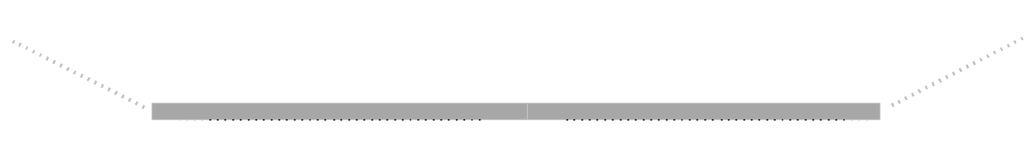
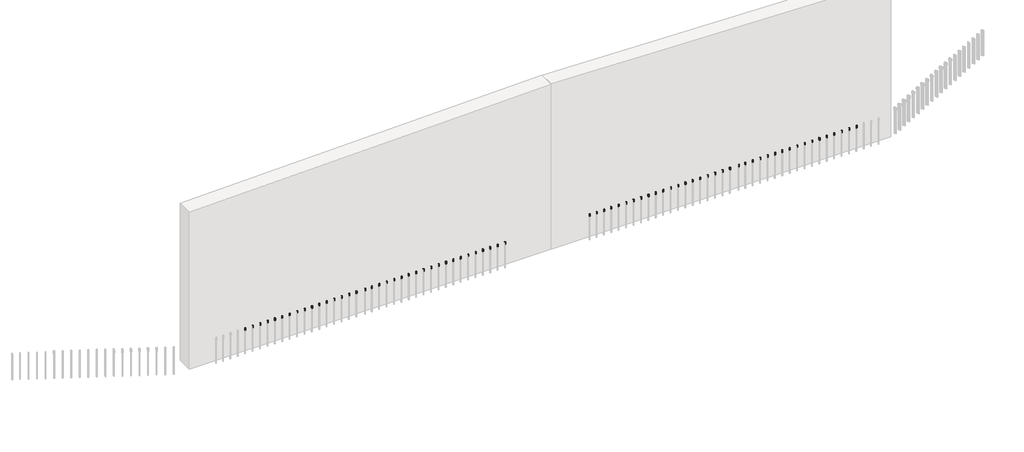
# One storey, part 6 of 7: 144 proxies.
"""IFC4 building model written with IfcOpenShell, lengths in millimetres."""

from ifc_helpers import new_model, si_unit, origin, place, context, project, spatial, transform, mapped, element, save
from components import generic_models_e9040c9c

model = new_model("IFC4")

# Units and contexts
model_context = context("Model", 3, world=origin())
ifc_project = project(units=[si_unit("LENGTHUNIT", "METRE", prefix="MILLI")], contexts=[model_context])

# Site, building, storey
site = spatial("IfcSite", under=ifc_project)
building = spatial("IfcBuilding", under=site)
storey = spatial("IfcBuildingStorey", under=building, Name="Niveau bas piédroits", Elevation=1000.0)

# Proxies
placement = place(None, origin())
generic_models_shape = generic_models_e9040c9c(model_context)
element("IfcBuildingElementProxy", 1, Name="Bouchon de sécurité vertical : Bouchon de sécurité vertical", ObjectType="Bouchon de sécurité vertical : Bouchon de sécurité vertical", at=placement, inside=storey, context=model_context, shape_type="MappedRepresentation", body=[
    mapped(generic_models_shape, transform((-7949.4240936, 5057.4338661, 1708.9775513), x_axis=(1.0, 0.0, 0.0), y_axis=(0.0, 1.0, 0.0), z_axis=(0.0, 0.0, 1.0))),
])
element("IfcBuildingElementProxy", 2, Name="Bouchon de sécurité vertical : Bouchon de sécurité vertical", ObjectType="Bouchon de sécurité vertical : Bouchon de sécurité vertical", at=placement, inside=storey, context=model_context, shape_type="MappedRepresentation", body=[
    mapped(generic_models_shape, transform((-8189.4240936, 5057.4338661, 1708.9775513), x_axis=(1.0, 0.0, 0.0), y_axis=(0.0, 1.0, 0.0), z_axis=(0.0, 0.0, 1.0))),
])
element("IfcBuildingElementProxy", 3, Name="Bouchon de sécurité vertical : Bouchon de sécurité vertical", ObjectType="Bouchon de sécurité vertical : Bouchon de sécurité vertical", at=placement, inside=storey, context=model_context, shape_type="MappedRepresentation", body=[
    mapped(generic_models_shape, transform((-8429.4240936, 5057.4338661, 1708.9775513), x_axis=(1.0, 0.0, 0.0), y_axis=(0.0, 1.0, 0.0), z_axis=(0.0, 0.0, 1.0))),
])
element("IfcBuildingElementProxy", 4, Name="Bouchon de sécurité vertical : Bouchon de sécurité vertical", ObjectType="Bouchon de sécurité vertical : Bouchon de sécurité vertical", at=placement, inside=storey, context=model_context, shape_type="MappedRepresentation", body=[
    mapped(generic_models_shape, transform((-8669.4240936, 5057.4338661, 1708.9775513), x_axis=(1.0, 0.0, 0.0), y_axis=(0.0, 1.0, 0.0), z_axis=(0.0, 0.0, 1.0))),
])
element("IfcBuildingElementProxy", 5, Name="Bouchon de sécurité vertical : Bouchon de sécurité vertical", ObjectType="Bouchon de sécurité vertical : Bouchon de sécurité vertical", at=placement, inside=storey, context=model_context, shape_type="MappedRepresentation", body=[
    mapped(generic_models_shape, transform((-8909.4240936, 5057.4338661, 1708.9775513), x_axis=(1.0, 0.0, 0.0), y_axis=(0.0, 1.0, 0.0), z_axis=(0.0, 0.0, 1.0))),
])
element("IfcBuildingElementProxy", 6, Name="Bouchon de sécurité vertical : Bouchon de sécurité vertical", ObjectType="Bouchon de sécurité vertical : Bouchon de sécurité vertical", at=placement, inside=storey, context=model_context, shape_type="MappedRepresentation", body=[
    mapped(generic_models_shape, transform((-9149.4240936, 5057.4338661, 1708.9775513), x_axis=(1.0, 0.0, 0.0), y_axis=(0.0, 1.0, 0.0), z_axis=(0.0, 0.0, 1.0))),
])
element("IfcBuildingElementProxy", 7, Name="Bouchon de sécurité vertical : Bouchon de sécurité vertical", ObjectType="Bouchon de sécurité vertical : Bouchon de sécurité vertical", at=placement, inside=storey, context=model_context, shape_type="MappedRepresentation", body=[
    mapped(generic_models_shape, transform((-9389.4240936, 5057.4338661, 1708.9775513), x_axis=(1.0, 0.0, 0.0), y_axis=(0.0, 1.0, 0.0), z_axis=(0.0, 0.0, 1.0))),
])
element("IfcBuildingElementProxy", 8, Name="Bouchon de sécurité vertical : Bouchon de sécurité vertical", ObjectType="Bouchon de sécurité vertical : Bouchon de sécurité vertical", at=placement, inside=storey, context=model_context, shape_type="MappedRepresentation", body=[
    mapped(generic_models_shape, transform((-9629.4240936, 5057.4338661, 1708.9775513), x_axis=(1.0, 0.0, 0.0), y_axis=(0.0, 1.0, 0.0), z_axis=(0.0, 0.0, 1.0))),
])
element("IfcBuildingElementProxy", 9, Name="Bouchon de sécurité vertical : Bouchon de sécurité vertical", ObjectType="Bouchon de sécurité vertical : Bouchon de sécurité vertical", at=placement, inside=storey, context=model_context, shape_type="MappedRepresentation", body=[
    mapped(generic_models_shape, transform((-9869.4240936, 5057.4338661, 1708.9775513), x_axis=(1.0, 0.0, 0.0), y_axis=(0.0, 1.0, 0.0), z_axis=(0.0, 0.0, 1.0))),
])
element("IfcBuildingElementProxy", 10, Name="Bouchon de sécurité vertical : Bouchon de sécurité vertical", ObjectType="Bouchon de sécurité vertical : Bouchon de sécurité vertical", at=placement, inside=storey, context=model_context, shape_type="MappedRepresentation", body=[
    mapped(generic_models_shape, transform((-7709.4240936, 5057.4338661, 1708.9775513), x_axis=(1.0, 0.0, 0.0), y_axis=(0.0, 1.0, 0.0), z_axis=(0.0, 0.0, 1.0))),
])
element("IfcBuildingElementProxy", 11, Name="Bouchon de sécurité vertical : Bouchon de sécurité vertical", ObjectType="Bouchon de sécurité vertical : Bouchon de sécurité vertical", at=placement, inside=storey, context=model_context, shape_type="MappedRepresentation", body=[
    mapped(generic_models_shape, transform((-7469.4240936, 5057.4338661, 1708.9775513), x_axis=(1.0, 0.0, 0.0), y_axis=(0.0, 1.0, 0.0), z_axis=(0.0, 0.0, 1.0))),
])
element("IfcBuildingElementProxy", 12, Name="Bouchon de sécurité vertical : Bouchon de sécurité vertical", ObjectType="Bouchon de sécurité vertical : Bouchon de sécurité vertical", at=placement, inside=storey, context=model_context, shape_type="MappedRepresentation", body=[
    mapped(generic_models_shape, transform((-5989.3381686, 5057.4338661, 1708.9775513), x_axis=(1.0, 0.0, 0.0), y_axis=(0.0, 1.0, 0.0), z_axis=(0.0, 0.0, 1.0))),
])
element("IfcBuildingElementProxy", 13, Name="Bouchon de sécurité vertical : Bouchon de sécurité vertical", ObjectType="Bouchon de sécurité vertical : Bouchon de sécurité vertical", at=placement, inside=storey, context=model_context, shape_type="MappedRepresentation", body=[
    mapped(generic_models_shape, transform((-6269.4240936, 5057.4338661, 1708.9775513), x_axis=(1.0, 0.0, 0.0), y_axis=(0.0, 1.0, 0.0), z_axis=(0.0, 0.0, 1.0))),
])
element("IfcBuildingElementProxy", 14, Name="Bouchon de sécurité vertical : Bouchon de sécurité vertical", ObjectType="Bouchon de sécurité vertical : Bouchon de sécurité vertical", at=placement, inside=storey, context=model_context, shape_type="MappedRepresentation", body=[
    mapped(generic_models_shape, transform((-6509.4240936, 5057.4338661, 1708.9775513), x_axis=(1.0, 0.0, 0.0), y_axis=(0.0, 1.0, 0.0), z_axis=(0.0, 0.0, 1.0))),
])
element("IfcBuildingElementProxy", 15, Name="Bouchon de sécurité vertical : Bouchon de sécurité vertical", ObjectType="Bouchon de sécurité vertical : Bouchon de sécurité vertical", at=placement, inside=storey, context=model_context, shape_type="MappedRepresentation", body=[
    mapped(generic_models_shape, transform((-6749.4240936, 5057.4338661, 1708.9775513), x_axis=(1.0, 0.0, 0.0), y_axis=(0.0, 1.0, 0.0), z_axis=(0.0, 0.0, 1.0))),
])
element("IfcBuildingElementProxy", 16, Name="Bouchon de sécurité vertical : Bouchon de sécurité vertical", ObjectType="Bouchon de sécurité vertical : Bouchon de sécurité vertical", at=placement, inside=storey, context=model_context, shape_type="MappedRepresentation", body=[
    mapped(generic_models_shape, transform((-6989.4240936, 5057.4338661, 1708.9775513), x_axis=(1.0, 0.0, 0.0), y_axis=(0.0, 1.0, 0.0), z_axis=(0.0, 0.0, 1.0))),
])
element("IfcBuildingElementProxy", 17, Name="Bouchon de sécurité vertical : Bouchon de sécurité vertical", ObjectType="Bouchon de sécurité vertical : Bouchon de sécurité vertical", at=placement, inside=storey, context=model_context, shape_type="MappedRepresentation", body=[
    mapped(generic_models_shape, transform((-7229.4240936, 5057.4338661, 1708.9775513), x_axis=(1.0, 0.0, 0.0), y_axis=(0.0, 1.0, 0.0), z_axis=(0.0, 0.0, 1.0))),
])
element("IfcBuildingElementProxy", 18, Name="Bouchon de sécurité vertical : Bouchon de sécurité vertical", ObjectType="Bouchon de sécurité vertical : Bouchon de sécurité vertical", at=placement, inside=storey, context=model_context, shape_type="MappedRepresentation", body=[
    mapped(generic_models_shape, transform((-5769.4240936, 5057.4338661, 1708.9775513), x_axis=(1.0, 0.0, 0.0), y_axis=(0.0, 1.0, 0.0), z_axis=(0.0, 0.0, 1.0))),
])
element("IfcBuildingElementProxy", 19, Name="Bouchon de sécurité vertical : Bouchon de sécurité vertical", ObjectType="Bouchon de sécurité vertical : Bouchon de sécurité vertical", at=placement, inside=storey, context=model_context, shape_type="MappedRepresentation", body=[
    mapped(generic_models_shape, transform((-5529.4240936, 5057.4338661, 1708.9775513), x_axis=(1.0, 0.0, 0.0), y_axis=(0.0, 1.0, 0.0), z_axis=(0.0, 0.0, 1.0))),
])
element("IfcBuildingElementProxy", 20, Name="Bouchon de sécurité vertical : Bouchon de sécurité vertical", ObjectType="Bouchon de sécurité vertical : Bouchon de sécurité vertical", at=placement, inside=storey, context=model_context, shape_type="MappedRepresentation", body=[
    mapped(generic_models_shape, transform((-2649.4240936, 5057.4338661, 1708.9775513), x_axis=(1.0, 0.0, 0.0), y_axis=(0.0, 1.0, 0.0), z_axis=(0.0, 0.0, 1.0))),
])
element("IfcBuildingElementProxy", 21, Name="Bouchon de sécurité vertical : Bouchon de sécurité vertical", ObjectType="Bouchon de sécurité vertical : Bouchon de sécurité vertical", at=placement, inside=storey, context=model_context, shape_type="MappedRepresentation", body=[
    mapped(generic_models_shape, transform((-2889.4240936, 5057.4338661, 1708.9775513), x_axis=(1.0, 0.0, 0.0), y_axis=(0.0, 1.0, 0.0), z_axis=(0.0, 0.0, 1.0))),
])
element("IfcBuildingElementProxy", 22, Name="Bouchon de sécurité vertical : Bouchon de sécurité vertical", ObjectType="Bouchon de sécurité vertical : Bouchon de sécurité vertical", at=placement, inside=storey, context=model_context, shape_type="MappedRepresentation", body=[
    mapped(generic_models_shape, transform((-3129.4240936, 5057.4338661, 1708.9775513), x_axis=(1.0, 0.0, 0.0), y_axis=(0.0, 1.0, 0.0), z_axis=(0.0, 0.0, 1.0))),
])
element("IfcBuildingElementProxy", 23, Name="Bouchon de sécurité vertical : Bouchon de sécurité vertical", ObjectType="Bouchon de sécurité vertical : Bouchon de sécurité vertical", at=placement, inside=storey, context=model_context, shape_type="MappedRepresentation", body=[
    mapped(generic_models_shape, transform((-3369.4240936, 5057.4338661, 1708.9775513), x_axis=(1.0, 0.0, 0.0), y_axis=(0.0, 1.0, 0.0), z_axis=(0.0, 0.0, 1.0))),
])
element("IfcBuildingElementProxy", 24, Name="Bouchon de sécurité vertical : Bouchon de sécurité vertical", ObjectType="Bouchon de sécurité vertical : Bouchon de sécurité vertical", at=placement, inside=storey, context=model_context, shape_type="MappedRepresentation", body=[
    mapped(generic_models_shape, transform((-3609.4240936, 5057.4338661, 1708.9775513), x_axis=(1.0, 0.0, 0.0), y_axis=(0.0, 1.0, 0.0), z_axis=(0.0, 0.0, 1.0))),
])
element("IfcBuildingElementProxy", 25, Name="Bouchon de sécurité vertical : Bouchon de sécurité vertical", ObjectType="Bouchon de sécurité vertical : Bouchon de sécurité vertical", at=placement, inside=storey, context=model_context, shape_type="MappedRepresentation", body=[
    mapped(generic_models_shape, transform((-3849.4240936, 5057.4338661, 1708.9775513), x_axis=(1.0, 0.0, 0.0), y_axis=(0.0, 1.0, 0.0), z_axis=(0.0, 0.0, 1.0))),
])
element("IfcBuildingElementProxy", 26, Name="Bouchon de sécurité vertical : Bouchon de sécurité vertical", ObjectType="Bouchon de sécurité vertical : Bouchon de sécurité vertical", at=placement, inside=storey, context=model_context, shape_type="MappedRepresentation", body=[
    mapped(generic_models_shape, transform((-2409.4240936, 5057.4338661, 1708.9775513), x_axis=(1.0, 0.0, 0.0), y_axis=(0.0, 1.0, 0.0), z_axis=(0.0, 0.0, 1.0))),
])
element("IfcBuildingElementProxy", 27, Name="Bouchon de sécurité vertical : Bouchon de sécurité vertical", ObjectType="Bouchon de sécurité vertical : Bouchon de sécurité vertical", at=placement, inside=storey, context=model_context, shape_type="MappedRepresentation", body=[
    mapped(generic_models_shape, transform((-2169.4240936, 5057.4338661, 1708.9775513), x_axis=(1.0, 0.0, 0.0), y_axis=(0.0, 1.0, 0.0), z_axis=(0.0, 0.0, 1.0))),
])
element("IfcBuildingElementProxy", 28, Name="Bouchon de sécurité vertical : Bouchon de sécurité vertical", ObjectType="Bouchon de sécurité vertical : Bouchon de sécurité vertical", at=placement, inside=storey, context=model_context, shape_type="MappedRepresentation", body=[
    mapped(generic_models_shape, transform((-5289.4240936, 5057.4338661, 1708.9775513), x_axis=(1.0, 0.0, 0.0), y_axis=(0.0, 1.0, 0.0), z_axis=(0.0, 0.0, 1.0))),
])
element("IfcBuildingElementProxy", 29, Name="Bouchon de sécurité vertical : Bouchon de sécurité vertical", ObjectType="Bouchon de sécurité vertical : Bouchon de sécurité vertical", at=placement, inside=storey, context=model_context, shape_type="MappedRepresentation", body=[
    mapped(generic_models_shape, transform((-5049.4240936, 5057.4338661, 1708.9775513), x_axis=(1.0, 0.0, 0.0), y_axis=(0.0, 1.0, 0.0), z_axis=(0.0, 0.0, 1.0))),
])
element("IfcBuildingElementProxy", 30, Name="Bouchon de sécurité vertical : Bouchon de sécurité vertical", ObjectType="Bouchon de sécurité vertical : Bouchon de sécurité vertical", at=placement, inside=storey, context=model_context, shape_type="MappedRepresentation", body=[
    mapped(generic_models_shape, transform((-4809.4240936, 5057.4338661, 1708.9775513), x_axis=(1.0, 0.0, 0.0), y_axis=(0.0, 1.0, 0.0), z_axis=(0.0, 0.0, 1.0))),
])
element("IfcBuildingElementProxy", 31, Name="Bouchon de sécurité vertical : Bouchon de sécurité vertical", ObjectType="Bouchon de sécurité vertical : Bouchon de sécurité vertical", at=placement, inside=storey, context=model_context, shape_type="MappedRepresentation", body=[
    mapped(generic_models_shape, transform((-4569.4240936, 5057.4338661, 1708.9775513), x_axis=(1.0, 0.0, 0.0), y_axis=(0.0, 1.0, 0.0), z_axis=(0.0, 0.0, 1.0))),
])
element("IfcBuildingElementProxy", 32, Name="Bouchon de sécurité vertical : Bouchon de sécurité vertical", ObjectType="Bouchon de sécurité vertical : Bouchon de sécurité vertical", at=placement, inside=storey, context=model_context, shape_type="MappedRepresentation", body=[
    mapped(generic_models_shape, transform((-4329.9623132, 5057.4338661, 1708.9775513), x_axis=(1.0, 0.0, 0.0), y_axis=(0.0, 1.0, 0.0), z_axis=(0.0, 0.0, 1.0))),
])
element("IfcBuildingElementProxy", 33, Name="Bouchon de sécurité vertical : Bouchon de sécurité vertical", ObjectType="Bouchon de sécurité vertical : Bouchon de sécurité vertical", at=placement, inside=storey, context=model_context, shape_type="MappedRepresentation", body=[
    mapped(generic_models_shape, transform((-4089.9623132, 5057.4338661, 1708.9775513), x_axis=(1.0, 0.0, 0.0), y_axis=(0.0, 1.0, 0.0), z_axis=(0.0, 0.0, 1.0))),
])
element("IfcBuildingElementProxy", 34, Name="Bouchon de sécurité vertical : Bouchon de sécurité vertical", ObjectType="Bouchon de sécurité vertical : Bouchon de sécurité vertical", at=placement, inside=storey, context=model_context, shape_type="MappedRepresentation", body=[
    mapped(generic_models_shape, transform((-1929.4240936, 5057.4338661, 1708.9775513), x_axis=(1.0, 0.0, 0.0), y_axis=(0.0, 1.0, 0.0), z_axis=(0.0, 0.0, 1.0))),
])
element("IfcBuildingElementProxy", 35, Name="Bouchon de sécurité vertical : Bouchon de sécurité vertical", ObjectType="Bouchon de sécurité vertical : Bouchon de sécurité vertical", at=placement, inside=storey, context=model_context, shape_type="MappedRepresentation", body=[
    mapped(generic_models_shape, transform((-1689.4240936, 5057.4338661, 1708.9775513), x_axis=(1.0, 0.0, 0.0), y_axis=(0.0, 1.0, 0.0), z_axis=(0.0, 0.0, 1.0))),
])
element("IfcBuildingElementProxy", 36, Name="Bouchon de sécurité vertical : Bouchon de sécurité vertical", ObjectType="Bouchon de sécurité vertical : Bouchon de sécurité vertical", at=placement, inside=storey, context=model_context, shape_type="MappedRepresentation", body=[
    mapped(generic_models_shape, transform((-1449.4240936, 5057.4338661, 1708.9775513), x_axis=(1.0, 0.0, 0.0), y_axis=(0.0, 1.0, 0.0), z_axis=(0.0, 0.0, 1.0))),
])
element("IfcBuildingElementProxy", 37, Name="Bouchon de sécurité vertical : Bouchon de sécurité vertical", ObjectType="Bouchon de sécurité vertical : Bouchon de sécurité vertical", at=placement, inside=storey, context=model_context, shape_type="MappedRepresentation", body=[
    mapped(generic_models_shape, transform((-7949.4240936, 5337.4338661, 1708.9775513), x_axis=(1.0, 0.0, 0.0), y_axis=(0.0, 1.0, 0.0), z_axis=(0.0, 0.0, 1.0))),
])
element("IfcBuildingElementProxy", 38, Name="Bouchon de sécurité vertical : Bouchon de sécurité vertical", ObjectType="Bouchon de sécurité vertical : Bouchon de sécurité vertical", at=placement, inside=storey, context=model_context, shape_type="MappedRepresentation", body=[
    mapped(generic_models_shape, transform((-8189.4240936, 5337.4338661, 1708.9775513), x_axis=(1.0, 0.0, 0.0), y_axis=(0.0, 1.0, 0.0), z_axis=(0.0, 0.0, 1.0))),
])
element("IfcBuildingElementProxy", 39, Name="Bouchon de sécurité vertical : Bouchon de sécurité vertical", ObjectType="Bouchon de sécurité vertical : Bouchon de sécurité vertical", at=placement, inside=storey, context=model_context, shape_type="MappedRepresentation", body=[
    mapped(generic_models_shape, transform((-8429.4240936, 5337.4338661, 1708.9775513), x_axis=(1.0, 0.0, 0.0), y_axis=(0.0, 1.0, 0.0), z_axis=(0.0, 0.0, 1.0))),
])
element("IfcBuildingElementProxy", 40, Name="Bouchon de sécurité vertical : Bouchon de sécurité vertical", ObjectType="Bouchon de sécurité vertical : Bouchon de sécurité vertical", at=placement, inside=storey, context=model_context, shape_type="MappedRepresentation", body=[
    mapped(generic_models_shape, transform((-8669.4240936, 5337.4338661, 1708.9775513), x_axis=(1.0, 0.0, 0.0), y_axis=(0.0, 1.0, 0.0), z_axis=(0.0, 0.0, 1.0))),
])
element("IfcBuildingElementProxy", 41, Name="Bouchon de sécurité vertical : Bouchon de sécurité vertical", ObjectType="Bouchon de sécurité vertical : Bouchon de sécurité vertical", at=placement, inside=storey, context=model_context, shape_type="MappedRepresentation", body=[
    mapped(generic_models_shape, transform((-8909.4240936, 5337.4338661, 1708.9775513), x_axis=(1.0, 0.0, 0.0), y_axis=(0.0, 1.0, 0.0), z_axis=(0.0, 0.0, 1.0))),
])
element("IfcBuildingElementProxy", 42, Name="Bouchon de sécurité vertical : Bouchon de sécurité vertical", ObjectType="Bouchon de sécurité vertical : Bouchon de sécurité vertical", at=placement, inside=storey, context=model_context, shape_type="MappedRepresentation", body=[
    mapped(generic_models_shape, transform((-9149.4240936, 5337.4338661, 1708.9775513), x_axis=(1.0, 0.0, 0.0), y_axis=(0.0, 1.0, 0.0), z_axis=(0.0, 0.0, 1.0))),
])
element("IfcBuildingElementProxy", 43, Name="Bouchon de sécurité vertical : Bouchon de sécurité vertical", ObjectType="Bouchon de sécurité vertical : Bouchon de sécurité vertical", at=placement, inside=storey, context=model_context, shape_type="MappedRepresentation", body=[
    mapped(generic_models_shape, transform((-9389.4240936, 5337.4338661, 1708.9775513), x_axis=(1.0, 0.0, 0.0), y_axis=(0.0, 1.0, 0.0), z_axis=(0.0, 0.0, 1.0))),
])
element("IfcBuildingElementProxy", 44, Name="Bouchon de sécurité vertical : Bouchon de sécurité vertical", ObjectType="Bouchon de sécurité vertical : Bouchon de sécurité vertical", at=placement, inside=storey, context=model_context, shape_type="MappedRepresentation", body=[
    mapped(generic_models_shape, transform((-9629.4240936, 5337.4338661, 1708.9775513), x_axis=(1.0, 0.0, 0.0), y_axis=(0.0, 1.0, 0.0), z_axis=(0.0, 0.0, 1.0))),
])
element("IfcBuildingElementProxy", 45, Name="Bouchon de sécurité vertical : Bouchon de sécurité vertical", ObjectType="Bouchon de sécurité vertical : Bouchon de sécurité vertical", at=placement, inside=storey, context=model_context, shape_type="MappedRepresentation", body=[
    mapped(generic_models_shape, transform((-9869.4240936, 5337.4338661, 1708.9775513), x_axis=(1.0, 0.0, 0.0), y_axis=(0.0, 1.0, 0.0), z_axis=(0.0, 0.0, 1.0))),
])
element("IfcBuildingElementProxy", 46, Name="Bouchon de sécurité vertical : Bouchon de sécurité vertical", ObjectType="Bouchon de sécurité vertical : Bouchon de sécurité vertical", at=placement, inside=storey, context=model_context, shape_type="MappedRepresentation", body=[
    mapped(generic_models_shape, transform((-10589.4240936, 5337.4338661, 1708.9775513), x_axis=(1.0, 0.0, 0.0), y_axis=(0.0, 1.0, 0.0), z_axis=(0.0, 0.0, 1.0))),
])
element("IfcBuildingElementProxy", 47, Name="Bouchon de sécurité vertical : Bouchon de sécurité vertical", ObjectType="Bouchon de sécurité vertical : Bouchon de sécurité vertical", at=placement, inside=storey, context=model_context, shape_type="MappedRepresentation", body=[
    mapped(generic_models_shape, transform((-10809.4240936, 5337.4338661, 1708.9775513), x_axis=(1.0, 0.0, 0.0), y_axis=(0.0, 1.0, 0.0), z_axis=(0.0, 0.0, 1.0))),
])
element("IfcBuildingElementProxy", 48, Name="Bouchon de sécurité vertical : Bouchon de sécurité vertical", ObjectType="Bouchon de sécurité vertical : Bouchon de sécurité vertical", at=placement, inside=storey, context=model_context, shape_type="MappedRepresentation", body=[
    mapped(generic_models_shape, transform((-7709.4240936, 5337.4338661, 1708.9775513), x_axis=(1.0, 0.0, 0.0), y_axis=(0.0, 1.0, 0.0), z_axis=(0.0, 0.0, 1.0))),
])
element("IfcBuildingElementProxy", 49, Name="Bouchon de sécurité vertical : Bouchon de sécurité vertical", ObjectType="Bouchon de sécurité vertical : Bouchon de sécurité vertical", at=placement, inside=storey, context=model_context, shape_type="MappedRepresentation", body=[
    mapped(generic_models_shape, transform((-7469.4240936, 5337.4338661, 1708.9775513), x_axis=(1.0, 0.0, 0.0), y_axis=(0.0, 1.0, 0.0), z_axis=(0.0, 0.0, 1.0))),
])
element("IfcBuildingElementProxy", 50, Name="Bouchon de sécurité vertical : Bouchon de sécurité vertical", ObjectType="Bouchon de sécurité vertical : Bouchon de sécurité vertical", at=placement, inside=storey, context=model_context, shape_type="MappedRepresentation", body=[
    mapped(generic_models_shape, transform((-5989.3381686, 5337.4338661, 1708.9775513), x_axis=(1.0, 0.0, 0.0), y_axis=(0.0, 1.0, 0.0), z_axis=(0.0, 0.0, 1.0))),
])
element("IfcBuildingElementProxy", 51, Name="Bouchon de sécurité vertical : Bouchon de sécurité vertical", ObjectType="Bouchon de sécurité vertical : Bouchon de sécurité vertical", at=placement, inside=storey, context=model_context, shape_type="MappedRepresentation", body=[
    mapped(generic_models_shape, transform((-6269.4240936, 5337.4338661, 1708.9775513), x_axis=(1.0, 0.0, 0.0), y_axis=(0.0, 1.0, 0.0), z_axis=(0.0, 0.0, 1.0))),
])
element("IfcBuildingElementProxy", 52, Name="Bouchon de sécurité vertical : Bouchon de sécurité vertical", ObjectType="Bouchon de sécurité vertical : Bouchon de sécurité vertical", at=placement, inside=storey, context=model_context, shape_type="MappedRepresentation", body=[
    mapped(generic_models_shape, transform((-6509.4240936, 5337.4338661, 1708.9775513), x_axis=(1.0, 0.0, 0.0), y_axis=(0.0, 1.0, 0.0), z_axis=(0.0, 0.0, 1.0))),
])
element("IfcBuildingElementProxy", 53, Name="Bouchon de sécurité vertical : Bouchon de sécurité vertical", ObjectType="Bouchon de sécurité vertical : Bouchon de sécurité vertical", at=placement, inside=storey, context=model_context, shape_type="MappedRepresentation", body=[
    mapped(generic_models_shape, transform((-6749.4240936, 5337.4338661, 1708.9775513), x_axis=(1.0, 0.0, 0.0), y_axis=(0.0, 1.0, 0.0), z_axis=(0.0, 0.0, 1.0))),
])
element("IfcBuildingElementProxy", 54, Name="Bouchon de sécurité vertical : Bouchon de sécurité vertical", ObjectType="Bouchon de sécurité vertical : Bouchon de sécurité vertical", at=placement, inside=storey, context=model_context, shape_type="MappedRepresentation", body=[
    mapped(generic_models_shape, transform((-6989.4240936, 5337.4338661, 1708.9775513), x_axis=(1.0, 0.0, 0.0), y_axis=(0.0, 1.0, 0.0), z_axis=(0.0, 0.0, 1.0))),
])
element("IfcBuildingElementProxy", 55, Name="Bouchon de sécurité vertical : Bouchon de sécurité vertical", ObjectType="Bouchon de sécurité vertical : Bouchon de sécurité vertical", at=placement, inside=storey, context=model_context, shape_type="MappedRepresentation", body=[
    mapped(generic_models_shape, transform((-7229.4240936, 5337.4338661, 1708.9775513), x_axis=(1.0, 0.0, 0.0), y_axis=(0.0, 1.0, 0.0), z_axis=(0.0, 0.0, 1.0))),
])
element("IfcBuildingElementProxy", 56, Name="Bouchon de sécurité vertical : Bouchon de sécurité vertical", ObjectType="Bouchon de sécurité vertical : Bouchon de sécurité vertical", at=placement, inside=storey, context=model_context, shape_type="MappedRepresentation", body=[
    mapped(generic_models_shape, transform((-5769.4240936, 5337.4338661, 1708.9775513), x_axis=(1.0, 0.0, 0.0), y_axis=(0.0, 1.0, 0.0), z_axis=(0.0, 0.0, 1.0))),
])
element("IfcBuildingElementProxy", 57, Name="Bouchon de sécurité vertical : Bouchon de sécurité vertical", ObjectType="Bouchon de sécurité vertical : Bouchon de sécurité vertical", at=placement, inside=storey, context=model_context, shape_type="MappedRepresentation", body=[
    mapped(generic_models_shape, transform((-5529.4240936, 5337.4338661, 1708.9775513), x_axis=(1.0, 0.0, 0.0), y_axis=(0.0, 1.0, 0.0), z_axis=(0.0, 0.0, 1.0))),
])
element("IfcBuildingElementProxy", 58, Name="Bouchon de sécurité vertical : Bouchon de sécurité vertical", ObjectType="Bouchon de sécurité vertical : Bouchon de sécurité vertical", at=placement, inside=storey, context=model_context, shape_type="MappedRepresentation", body=[
    mapped(generic_models_shape, transform((-2649.4240936, 5337.4338661, 1708.9775513), x_axis=(1.0, 0.0, 0.0), y_axis=(0.0, 1.0, 0.0), z_axis=(0.0, 0.0, 1.0))),
])
element("IfcBuildingElementProxy", 59, Name="Bouchon de sécurité vertical : Bouchon de sécurité vertical", ObjectType="Bouchon de sécurité vertical : Bouchon de sécurité vertical", at=placement, inside=storey, context=model_context, shape_type="MappedRepresentation", body=[
    mapped(generic_models_shape, transform((-2889.4240936, 5337.4338661, 1708.9775513), x_axis=(1.0, 0.0, 0.0), y_axis=(0.0, 1.0, 0.0), z_axis=(0.0, 0.0, 1.0))),
])
element("IfcBuildingElementProxy", 60, Name="Bouchon de sécurité vertical : Bouchon de sécurité vertical", ObjectType="Bouchon de sécurité vertical : Bouchon de sécurité vertical", at=placement, inside=storey, context=model_context, shape_type="MappedRepresentation", body=[
    mapped(generic_models_shape, transform((-3129.4240936, 5337.4338661, 1708.9775513), x_axis=(1.0, 0.0, 0.0), y_axis=(0.0, 1.0, 0.0), z_axis=(0.0, 0.0, 1.0))),
])
element("IfcBuildingElementProxy", 61, Name="Bouchon de sécurité vertical : Bouchon de sécurité vertical", ObjectType="Bouchon de sécurité vertical : Bouchon de sécurité vertical", at=placement, inside=storey, context=model_context, shape_type="MappedRepresentation", body=[
    mapped(generic_models_shape, transform((-3369.4240936, 5337.4338661, 1708.9775513), x_axis=(1.0, 0.0, 0.0), y_axis=(0.0, 1.0, 0.0), z_axis=(0.0, 0.0, 1.0))),
])
element("IfcBuildingElementProxy", 62, Name="Bouchon de sécurité vertical : Bouchon de sécurité vertical", ObjectType="Bouchon de sécurité vertical : Bouchon de sécurité vertical", at=placement, inside=storey, context=model_context, shape_type="MappedRepresentation", body=[
    mapped(generic_models_shape, transform((-3609.4240936, 5337.4338661, 1708.9775513), x_axis=(1.0, 0.0, 0.0), y_axis=(0.0, 1.0, 0.0), z_axis=(0.0, 0.0, 1.0))),
])
element("IfcBuildingElementProxy", 63, Name="Bouchon de sécurité vertical : Bouchon de sécurité vertical", ObjectType="Bouchon de sécurité vertical : Bouchon de sécurité vertical", at=placement, inside=storey, context=model_context, shape_type="MappedRepresentation", body=[
    mapped(generic_models_shape, transform((-3849.4240936, 5337.4338661, 1708.9775513), x_axis=(1.0, 0.0, 0.0), y_axis=(0.0, 1.0, 0.0), z_axis=(0.0, 0.0, 1.0))),
])
element("IfcBuildingElementProxy", 64, Name="Bouchon de sécurité vertical : Bouchon de sécurité vertical", ObjectType="Bouchon de sécurité vertical : Bouchon de sécurité vertical", at=placement, inside=storey, context=model_context, shape_type="MappedRepresentation", body=[
    mapped(generic_models_shape, transform((-2409.4240936, 5337.4338661, 1708.9775513), x_axis=(1.0, 0.0, 0.0), y_axis=(0.0, 1.0, 0.0), z_axis=(0.0, 0.0, 1.0))),
])
element("IfcBuildingElementProxy", 65, Name="Bouchon de sécurité vertical : Bouchon de sécurité vertical", ObjectType="Bouchon de sécurité vertical : Bouchon de sécurité vertical", at=placement, inside=storey, context=model_context, shape_type="MappedRepresentation", body=[
    mapped(generic_models_shape, transform((-2169.4240936, 5337.4338661, 1708.9775513), x_axis=(1.0, 0.0, 0.0), y_axis=(0.0, 1.0, 0.0), z_axis=(0.0, 0.0, 1.0))),
])
element("IfcBuildingElementProxy", 66, Name="Bouchon de sécurité vertical : Bouchon de sécurité vertical", ObjectType="Bouchon de sécurité vertical : Bouchon de sécurité vertical", at=placement, inside=storey, context=model_context, shape_type="MappedRepresentation", body=[
    mapped(generic_models_shape, transform((-5289.4240936, 5337.4338661, 1708.9775513), x_axis=(1.0, 0.0, 0.0), y_axis=(0.0, 1.0, 0.0), z_axis=(0.0, 0.0, 1.0))),
])
element("IfcBuildingElementProxy", 67, Name="Bouchon de sécurité vertical : Bouchon de sécurité vertical", ObjectType="Bouchon de sécurité vertical : Bouchon de sécurité vertical", at=placement, inside=storey, context=model_context, shape_type="MappedRepresentation", body=[
    mapped(generic_models_shape, transform((-5049.4240936, 5337.4338661, 1708.9775513), x_axis=(1.0, 0.0, 0.0), y_axis=(0.0, 1.0, 0.0), z_axis=(0.0, 0.0, 1.0))),
])
element("IfcBuildingElementProxy", 68, Name="Bouchon de sécurité vertical : Bouchon de sécurité vertical", ObjectType="Bouchon de sécurité vertical : Bouchon de sécurité vertical", at=placement, inside=storey, context=model_context, shape_type="MappedRepresentation", body=[
    mapped(generic_models_shape, transform((-4809.4240936, 5337.4338661, 1708.9775513), x_axis=(1.0, 0.0, 0.0), y_axis=(0.0, 1.0, 0.0), z_axis=(0.0, 0.0, 1.0))),
])
element("IfcBuildingElementProxy", 69, Name="Bouchon de sécurité vertical : Bouchon de sécurité vertical", ObjectType="Bouchon de sécurité vertical : Bouchon de sécurité vertical", at=placement, inside=storey, context=model_context, shape_type="MappedRepresentation", body=[
    mapped(generic_models_shape, transform((-4569.4240936, 5337.4338661, 1708.9775513), x_axis=(1.0, 0.0, 0.0), y_axis=(0.0, 1.0, 0.0), z_axis=(0.0, 0.0, 1.0))),
])
element("IfcBuildingElementProxy", 70, Name="Bouchon de sécurité vertical : Bouchon de sécurité vertical", ObjectType="Bouchon de sécurité vertical : Bouchon de sécurité vertical", at=placement, inside=storey, context=model_context, shape_type="MappedRepresentation", body=[
    mapped(generic_models_shape, transform((-4329.9623132, 5337.4338661, 1708.9775513), x_axis=(1.0, 0.0, 0.0), y_axis=(0.0, 1.0, 0.0), z_axis=(0.0, 0.0, 1.0))),
])
element("IfcBuildingElementProxy", 71, Name="Bouchon de sécurité vertical : Bouchon de sécurité vertical", ObjectType="Bouchon de sécurité vertical : Bouchon de sécurité vertical", at=placement, inside=storey, context=model_context, shape_type="MappedRepresentation", body=[
    mapped(generic_models_shape, transform((-4089.9623132, 5337.4338661, 1708.9775513), x_axis=(1.0, 0.0, 0.0), y_axis=(0.0, 1.0, 0.0), z_axis=(0.0, 0.0, 1.0))),
])
element("IfcBuildingElementProxy", 72, Name="Bouchon de sécurité vertical : Bouchon de sécurité vertical", ObjectType="Bouchon de sécurité vertical : Bouchon de sécurité vertical", at=placement, inside=storey, context=model_context, shape_type="MappedRepresentation", body=[
    mapped(generic_models_shape, transform((-1929.4240936, 5337.4338661, 1708.9775513), x_axis=(1.0, 0.0, 0.0), y_axis=(0.0, 1.0, 0.0), z_axis=(0.0, 0.0, 1.0))),
])
element("IfcBuildingElementProxy", 73, Name="Bouchon de sécurité vertical : Bouchon de sécurité vertical", ObjectType="Bouchon de sécurité vertical : Bouchon de sécurité vertical", at=placement, inside=storey, context=model_context, shape_type="MappedRepresentation", body=[
    mapped(generic_models_shape, transform((-1689.4240936, 5337.4338661, 1708.9775513), x_axis=(1.0, 0.0, 0.0), y_axis=(0.0, 1.0, 0.0), z_axis=(0.0, 0.0, 1.0))),
])
element("IfcBuildingElementProxy", 74, Name="Bouchon de sécurité vertical : Bouchon de sécurité vertical", ObjectType="Bouchon de sécurité vertical : Bouchon de sécurité vertical", at=placement, inside=storey, context=model_context, shape_type="MappedRepresentation", body=[
    mapped(generic_models_shape, transform((-1449.4240936, 5337.4338661, 1708.9775513), x_axis=(1.0, 0.0, 0.0), y_axis=(0.0, 1.0, 0.0), z_axis=(0.0, 0.0, 1.0))),
])
element("IfcBuildingElementProxy", 75, Name="Bouchon de sécurité vertical : Bouchon de sécurité vertical", ObjectType="Bouchon de sécurité vertical : Bouchon de sécurité vertical", at=placement, inside=storey, context=model_context, shape_type="MappedRepresentation", body=[
    mapped(generic_models_shape, transform((4150.5759064, 5057.4338661, 1708.9775513), x_axis=(1.0, 0.0, 0.0), y_axis=(0.0, 1.0, 0.0), z_axis=(0.0, 0.0, 1.0))),
])
element("IfcBuildingElementProxy", 76, Name="Bouchon de sécurité vertical : Bouchon de sécurité vertical", ObjectType="Bouchon de sécurité vertical : Bouchon de sécurité vertical", at=placement, inside=storey, context=model_context, shape_type="MappedRepresentation", body=[
    mapped(generic_models_shape, transform((3910.5759064, 5057.4338661, 1708.9775513), x_axis=(1.0, 0.0, 0.0), y_axis=(0.0, 1.0, 0.0), z_axis=(0.0, 0.0, 1.0))),
])
element("IfcBuildingElementProxy", 77, Name="Bouchon de sécurité vertical : Bouchon de sécurité vertical", ObjectType="Bouchon de sécurité vertical : Bouchon de sécurité vertical", at=placement, inside=storey, context=model_context, shape_type="MappedRepresentation", body=[
    mapped(generic_models_shape, transform((3670.5759064, 5057.4338661, 1708.9775513), x_axis=(1.0, 0.0, 0.0), y_axis=(0.0, 1.0, 0.0), z_axis=(0.0, 0.0, 1.0))),
])
element("IfcBuildingElementProxy", 78, Name="Bouchon de sécurité vertical : Bouchon de sécurité vertical", ObjectType="Bouchon de sécurité vertical : Bouchon de sécurité vertical", at=placement, inside=storey, context=model_context, shape_type="MappedRepresentation", body=[
    mapped(generic_models_shape, transform((3430.5759064, 5057.4338661, 1708.9775513), x_axis=(1.0, 0.0, 0.0), y_axis=(0.0, 1.0, 0.0), z_axis=(0.0, 0.0, 1.0))),
])
element("IfcBuildingElementProxy", 79, Name="Bouchon de sécurité vertical : Bouchon de sécurité vertical", ObjectType="Bouchon de sécurité vertical : Bouchon de sécurité vertical", at=placement, inside=storey, context=model_context, shape_type="MappedRepresentation", body=[
    mapped(generic_models_shape, transform((3190.5759064, 5057.4338661, 1708.9775513), x_axis=(1.0, 0.0, 0.0), y_axis=(0.0, 1.0, 0.0), z_axis=(0.0, 0.0, 1.0))),
])
element("IfcBuildingElementProxy", 80, Name="Bouchon de sécurité vertical : Bouchon de sécurité vertical", ObjectType="Bouchon de sécurité vertical : Bouchon de sécurité vertical", at=placement, inside=storey, context=model_context, shape_type="MappedRepresentation", body=[
    mapped(generic_models_shape, transform((2950.5759064, 5057.4338661, 1708.9775513), x_axis=(1.0, 0.0, 0.0), y_axis=(0.0, 1.0, 0.0), z_axis=(0.0, 0.0, 1.0))),
])
element("IfcBuildingElementProxy", 81, Name="Bouchon de sécurité vertical : Bouchon de sécurité vertical", ObjectType="Bouchon de sécurité vertical : Bouchon de sécurité vertical", at=placement, inside=storey, context=model_context, shape_type="MappedRepresentation", body=[
    mapped(generic_models_shape, transform((2710.5759064, 5057.4338661, 1708.9775513), x_axis=(1.0, 0.0, 0.0), y_axis=(0.0, 1.0, 0.0), z_axis=(0.0, 0.0, 1.0))),
])
element("IfcBuildingElementProxy", 82, Name="Bouchon de sécurité vertical : Bouchon de sécurité vertical", ObjectType="Bouchon de sécurité vertical : Bouchon de sécurité vertical", at=placement, inside=storey, context=model_context, shape_type="MappedRepresentation", body=[
    mapped(generic_models_shape, transform((2470.5759064, 5057.4338661, 1708.9775513), x_axis=(1.0, 0.0, 0.0), y_axis=(0.0, 1.0, 0.0), z_axis=(0.0, 0.0, 1.0))),
])
element("IfcBuildingElementProxy", 83, Name="Bouchon de sécurité vertical : Bouchon de sécurité vertical", ObjectType="Bouchon de sécurité vertical : Bouchon de sécurité vertical", at=placement, inside=storey, context=model_context, shape_type="MappedRepresentation", body=[
    mapped(generic_models_shape, transform((2230.5759064, 5057.4338661, 1708.9775513), x_axis=(1.0, 0.0, 0.0), y_axis=(0.0, 1.0, 0.0), z_axis=(0.0, 0.0, 1.0))),
])
element("IfcBuildingElementProxy", 84, Name="Bouchon de sécurité vertical : Bouchon de sécurité vertical", ObjectType="Bouchon de sécurité vertical : Bouchon de sécurité vertical", at=placement, inside=storey, context=model_context, shape_type="MappedRepresentation", body=[
    mapped(generic_models_shape, transform((1990.5759064, 5057.4338661, 1708.9775513), x_axis=(1.0, 0.0, 0.0), y_axis=(0.0, 1.0, 0.0), z_axis=(0.0, 0.0, 1.0))),
])
element("IfcBuildingElementProxy", 85, Name="Bouchon de sécurité vertical : Bouchon de sécurité vertical", ObjectType="Bouchon de sécurité vertical : Bouchon de sécurité vertical", at=placement, inside=storey, context=model_context, shape_type="MappedRepresentation", body=[
    mapped(generic_models_shape, transform((1750.5759064, 5057.4338661, 1708.9775513), x_axis=(1.0, 0.0, 0.0), y_axis=(0.0, 1.0, 0.0), z_axis=(0.0, 0.0, 1.0))),
])
element("IfcBuildingElementProxy", 86, Name="Bouchon de sécurité vertical : Bouchon de sécurité vertical", ObjectType="Bouchon de sécurité vertical : Bouchon de sécurité vertical", at=placement, inside=storey, context=model_context, shape_type="MappedRepresentation", body=[
    mapped(generic_models_shape, transform((1510.5759064, 5057.4338661, 1708.9775513), x_axis=(1.0, 0.0, 0.0), y_axis=(0.0, 1.0, 0.0), z_axis=(0.0, 0.0, 1.0))),
])
element("IfcBuildingElementProxy", 87, Name="Bouchon de sécurité vertical : Bouchon de sécurité vertical", ObjectType="Bouchon de sécurité vertical : Bouchon de sécurité vertical", at=placement, inside=storey, context=model_context, shape_type="MappedRepresentation", body=[
    mapped(generic_models_shape, transform((1290.5759064, 5057.4338661, 1708.9775513), x_axis=(1.0, 0.0, 0.0), y_axis=(0.0, 1.0, 0.0), z_axis=(0.0, 0.0, 1.0))),
])
element("IfcBuildingElementProxy", 88, Name="Bouchon de sécurité vertical : Bouchon de sécurité vertical", ObjectType="Bouchon de sécurité vertical : Bouchon de sécurité vertical", at=placement, inside=storey, context=model_context, shape_type="MappedRepresentation", body=[
    mapped(generic_models_shape, transform((4390.5759064, 5057.4338661, 1708.9775513), x_axis=(1.0, 0.0, 0.0), y_axis=(0.0, 1.0, 0.0), z_axis=(0.0, 0.0, 1.0))),
])
element("IfcBuildingElementProxy", 89, Name="Bouchon de sécurité vertical : Bouchon de sécurité vertical", ObjectType="Bouchon de sécurité vertical : Bouchon de sécurité vertical", at=placement, inside=storey, context=model_context, shape_type="MappedRepresentation", body=[
    mapped(generic_models_shape, transform((4630.5759064, 5057.4338661, 1708.9775513), x_axis=(1.0, 0.0, 0.0), y_axis=(0.0, 1.0, 0.0), z_axis=(0.0, 0.0, 1.0))),
])
element("IfcBuildingElementProxy", 90, Name="Bouchon de sécurité vertical : Bouchon de sécurité vertical", ObjectType="Bouchon de sécurité vertical : Bouchon de sécurité vertical", at=placement, inside=storey, context=model_context, shape_type="MappedRepresentation", body=[
    mapped(generic_models_shape, transform((6110.6618314, 5057.4338661, 1708.9775513), x_axis=(1.0, 0.0, 0.0), y_axis=(0.0, 1.0, 0.0), z_axis=(0.0, 0.0, 1.0))),
])
element("IfcBuildingElementProxy", 91, Name="Bouchon de sécurité vertical : Bouchon de sécurité vertical", ObjectType="Bouchon de sécurité vertical : Bouchon de sécurité vertical", at=placement, inside=storey, context=model_context, shape_type="MappedRepresentation", body=[
    mapped(generic_models_shape, transform((5830.5759064, 5057.4338661, 1708.9775513), x_axis=(1.0, 0.0, 0.0), y_axis=(0.0, 1.0, 0.0), z_axis=(0.0, 0.0, 1.0))),
])
element("IfcBuildingElementProxy", 92, Name="Bouchon de sécurité vertical : Bouchon de sécurité vertical", ObjectType="Bouchon de sécurité vertical : Bouchon de sécurité vertical", at=placement, inside=storey, context=model_context, shape_type="MappedRepresentation", body=[
    mapped(generic_models_shape, transform((5590.5759064, 5057.4338661, 1708.9775513), x_axis=(1.0, 0.0, 0.0), y_axis=(0.0, 1.0, 0.0), z_axis=(0.0, 0.0, 1.0))),
])
element("IfcBuildingElementProxy", 93, Name="Bouchon de sécurité vertical : Bouchon de sécurité vertical", ObjectType="Bouchon de sécurité vertical : Bouchon de sécurité vertical", at=placement, inside=storey, context=model_context, shape_type="MappedRepresentation", body=[
    mapped(generic_models_shape, transform((5350.5759064, 5057.4338661, 1708.9775513), x_axis=(1.0, 0.0, 0.0), y_axis=(0.0, 1.0, 0.0), z_axis=(0.0, 0.0, 1.0))),
])
element("IfcBuildingElementProxy", 94, Name="Bouchon de sécurité vertical : Bouchon de sécurité vertical", ObjectType="Bouchon de sécurité vertical : Bouchon de sécurité vertical", at=placement, inside=storey, context=model_context, shape_type="MappedRepresentation", body=[
    mapped(generic_models_shape, transform((5110.5759064, 5057.4338661, 1708.9775513), x_axis=(1.0, 0.0, 0.0), y_axis=(0.0, 1.0, 0.0), z_axis=(0.0, 0.0, 1.0))),
])
element("IfcBuildingElementProxy", 95, Name="Bouchon de sécurité vertical : Bouchon de sécurité vertical", ObjectType="Bouchon de sécurité vertical : Bouchon de sécurité vertical", at=placement, inside=storey, context=model_context, shape_type="MappedRepresentation", body=[
    mapped(generic_models_shape, transform((4870.5759064, 5057.4338661, 1708.9775513), x_axis=(1.0, 0.0, 0.0), y_axis=(0.0, 1.0, 0.0), z_axis=(0.0, 0.0, 1.0))),
])
element("IfcBuildingElementProxy", 96, Name="Bouchon de sécurité vertical : Bouchon de sécurité vertical", ObjectType="Bouchon de sécurité vertical : Bouchon de sécurité vertical", at=placement, inside=storey, context=model_context, shape_type="MappedRepresentation", body=[
    mapped(generic_models_shape, transform((6330.5759064, 5057.4338661, 1708.9775513), x_axis=(1.0, 0.0, 0.0), y_axis=(0.0, 1.0, 0.0), z_axis=(0.0, 0.0, 1.0))),
])
element("IfcBuildingElementProxy", 97, Name="Bouchon de sécurité vertical : Bouchon de sécurité vertical", ObjectType="Bouchon de sécurité vertical : Bouchon de sécurité vertical", at=placement, inside=storey, context=model_context, shape_type="MappedRepresentation", body=[
    mapped(generic_models_shape, transform((6570.5759064, 5057.4338661, 1708.9775513), x_axis=(1.0, 0.0, 0.0), y_axis=(0.0, 1.0, 0.0), z_axis=(0.0, 0.0, 1.0))),
])
element("IfcBuildingElementProxy", 98, Name="Bouchon de sécurité vertical : Bouchon de sécurité vertical", ObjectType="Bouchon de sécurité vertical : Bouchon de sécurité vertical", at=placement, inside=storey, context=model_context, shape_type="MappedRepresentation", body=[
    mapped(generic_models_shape, transform((9450.5759064, 5057.4338661, 1708.9775513), x_axis=(1.0, 0.0, 0.0), y_axis=(0.0, 1.0, 0.0), z_axis=(0.0, 0.0, 1.0))),
])
element("IfcBuildingElementProxy", 99, Name="Bouchon de sécurité vertical : Bouchon de sécurité vertical", ObjectType="Bouchon de sécurité vertical : Bouchon de sécurité vertical", at=placement, inside=storey, context=model_context, shape_type="MappedRepresentation", body=[
    mapped(generic_models_shape, transform((9210.5759064, 5057.4338661, 1708.9775513), x_axis=(1.0, 0.0, 0.0), y_axis=(0.0, 1.0, 0.0), z_axis=(0.0, 0.0, 1.0))),
])
element("IfcBuildingElementProxy", 100, Name="Bouchon de sécurité vertical : Bouchon de sécurité vertical", ObjectType="Bouchon de sécurité vertical : Bouchon de sécurité vertical", at=placement, inside=storey, context=model_context, shape_type="MappedRepresentation", body=[
    mapped(generic_models_shape, transform((8970.5759064, 5057.4338661, 1708.9775513), x_axis=(1.0, 0.0, 0.0), y_axis=(0.0, 1.0, 0.0), z_axis=(0.0, 0.0, 1.0))),
])
element("IfcBuildingElementProxy", 101, Name="Bouchon de sécurité vertical : Bouchon de sécurité vertical", ObjectType="Bouchon de sécurité vertical : Bouchon de sécurité vertical", at=placement, inside=storey, context=model_context, shape_type="MappedRepresentation", body=[
    mapped(generic_models_shape, transform((8730.5759064, 5057.4338661, 1708.9775513), x_axis=(1.0, 0.0, 0.0), y_axis=(0.0, 1.0, 0.0), z_axis=(0.0, 0.0, 1.0))),
])
element("IfcBuildingElementProxy", 102, Name="Bouchon de sécurité vertical : Bouchon de sécurité vertical", ObjectType="Bouchon de sécurité vertical : Bouchon de sécurité vertical", at=placement, inside=storey, context=model_context, shape_type="MappedRepresentation", body=[
    mapped(generic_models_shape, transform((8490.5759064, 5057.4338661, 1708.9775513), x_axis=(1.0, 0.0, 0.0), y_axis=(0.0, 1.0, 0.0), z_axis=(0.0, 0.0, 1.0))),
])
element("IfcBuildingElementProxy", 103, Name="Bouchon de sécurité vertical : Bouchon de sécurité vertical", ObjectType="Bouchon de sécurité vertical : Bouchon de sécurité vertical", at=placement, inside=storey, context=model_context, shape_type="MappedRepresentation", body=[
    mapped(generic_models_shape, transform((8250.5759064, 5057.4338661, 1708.9775513), x_axis=(1.0, 0.0, 0.0), y_axis=(0.0, 1.0, 0.0), z_axis=(0.0, 0.0, 1.0))),
])
element("IfcBuildingElementProxy", 104, Name="Bouchon de sécurité vertical : Bouchon de sécurité vertical", ObjectType="Bouchon de sécurité vertical : Bouchon de sécurité vertical", at=placement, inside=storey, context=model_context, shape_type="MappedRepresentation", body=[
    mapped(generic_models_shape, transform((9690.5759064, 5057.4338661, 1708.9775513), x_axis=(1.0, 0.0, 0.0), y_axis=(0.0, 1.0, 0.0), z_axis=(0.0, 0.0, 1.0))),
])
element("IfcBuildingElementProxy", 105, Name="Bouchon de sécurité vertical : Bouchon de sécurité vertical", ObjectType="Bouchon de sécurité vertical : Bouchon de sécurité vertical", at=placement, inside=storey, context=model_context, shape_type="MappedRepresentation", body=[
    mapped(generic_models_shape, transform((9930.5759064, 5057.4338661, 1708.9775513), x_axis=(1.0, 0.0, 0.0), y_axis=(0.0, 1.0, 0.0), z_axis=(0.0, 0.0, 1.0))),
])
element("IfcBuildingElementProxy", 106, Name="Bouchon de sécurité vertical : Bouchon de sécurité vertical", ObjectType="Bouchon de sécurité vertical : Bouchon de sécurité vertical", at=placement, inside=storey, context=model_context, shape_type="MappedRepresentation", body=[
    mapped(generic_models_shape, transform((6810.5759064, 5057.4338661, 1708.9775513), x_axis=(1.0, 0.0, 0.0), y_axis=(0.0, 1.0, 0.0), z_axis=(0.0, 0.0, 1.0))),
])
element("IfcBuildingElementProxy", 107, Name="Bouchon de sécurité vertical : Bouchon de sécurité vertical", ObjectType="Bouchon de sécurité vertical : Bouchon de sécurité vertical", at=placement, inside=storey, context=model_context, shape_type="MappedRepresentation", body=[
    mapped(generic_models_shape, transform((7050.5759064, 5057.4338661, 1708.9775513), x_axis=(1.0, 0.0, 0.0), y_axis=(0.0, 1.0, 0.0), z_axis=(0.0, 0.0, 1.0))),
])
element("IfcBuildingElementProxy", 108, Name="Bouchon de sécurité vertical : Bouchon de sécurité vertical", ObjectType="Bouchon de sécurité vertical : Bouchon de sécurité vertical", at=placement, inside=storey, context=model_context, shape_type="MappedRepresentation", body=[
    mapped(generic_models_shape, transform((7290.5759064, 5057.4338661, 1708.9775513), x_axis=(1.0, 0.0, 0.0), y_axis=(0.0, 1.0, 0.0), z_axis=(0.0, 0.0, 1.0))),
])
element("IfcBuildingElementProxy", 109, Name="Bouchon de sécurité vertical : Bouchon de sécurité vertical", ObjectType="Bouchon de sécurité vertical : Bouchon de sécurité vertical", at=placement, inside=storey, context=model_context, shape_type="MappedRepresentation", body=[
    mapped(generic_models_shape, transform((7530.5759064, 5057.4338661, 1708.9775513), x_axis=(1.0, 0.0, 0.0), y_axis=(0.0, 1.0, 0.0), z_axis=(0.0, 0.0, 1.0))),
])
element("IfcBuildingElementProxy", 110, Name="Bouchon de sécurité vertical : Bouchon de sécurité vertical", ObjectType="Bouchon de sécurité vertical : Bouchon de sécurité vertical", at=placement, inside=storey, context=model_context, shape_type="MappedRepresentation", body=[
    mapped(generic_models_shape, transform((7770.0376868, 5057.4338661, 1708.9775513), x_axis=(1.0, 0.0, 0.0), y_axis=(0.0, 1.0, 0.0), z_axis=(0.0, 0.0, 1.0))),
])
element("IfcBuildingElementProxy", 111, Name="Bouchon de sécurité vertical : Bouchon de sécurité vertical", ObjectType="Bouchon de sécurité vertical : Bouchon de sécurité vertical", at=placement, inside=storey, context=model_context, shape_type="MappedRepresentation", body=[
    mapped(generic_models_shape, transform((8010.0376868, 5057.4338661, 1708.9775513), x_axis=(1.0, 0.0, 0.0), y_axis=(0.0, 1.0, 0.0), z_axis=(0.0, 0.0, 1.0))),
])
element("IfcBuildingElementProxy", 112, Name="Bouchon de sécurité vertical : Bouchon de sécurité vertical", ObjectType="Bouchon de sécurité vertical : Bouchon de sécurité vertical", at=placement, inside=storey, context=model_context, shape_type="MappedRepresentation", body=[
    mapped(generic_models_shape, transform((4150.5759064, 5337.4338661, 1708.9775513), x_axis=(1.0, 0.0, 0.0), y_axis=(0.0, 1.0, 0.0), z_axis=(0.0, 0.0, 1.0))),
])
element("IfcBuildingElementProxy", 113, Name="Bouchon de sécurité vertical : Bouchon de sécurité vertical", ObjectType="Bouchon de sécurité vertical : Bouchon de sécurité vertical", at=placement, inside=storey, context=model_context, shape_type="MappedRepresentation", body=[
    mapped(generic_models_shape, transform((3910.5759064, 5337.4338661, 1708.9775513), x_axis=(1.0, 0.0, 0.0), y_axis=(0.0, 1.0, 0.0), z_axis=(0.0, 0.0, 1.0))),
])
element("IfcBuildingElementProxy", 114, Name="Bouchon de sécurité vertical : Bouchon de sécurité vertical", ObjectType="Bouchon de sécurité vertical : Bouchon de sécurité vertical", at=placement, inside=storey, context=model_context, shape_type="MappedRepresentation", body=[
    mapped(generic_models_shape, transform((3670.5759064, 5337.4338661, 1708.9775513), x_axis=(1.0, 0.0, 0.0), y_axis=(0.0, 1.0, 0.0), z_axis=(0.0, 0.0, 1.0))),
])
element("IfcBuildingElementProxy", 115, Name="Bouchon de sécurité vertical : Bouchon de sécurité vertical", ObjectType="Bouchon de sécurité vertical : Bouchon de sécurité vertical", at=placement, inside=storey, context=model_context, shape_type="MappedRepresentation", body=[
    mapped(generic_models_shape, transform((3430.5759064, 5337.4338661, 1708.9775513), x_axis=(1.0, 0.0, 0.0), y_axis=(0.0, 1.0, 0.0), z_axis=(0.0, 0.0, 1.0))),
])
element("IfcBuildingElementProxy", 116, Name="Bouchon de sécurité vertical : Bouchon de sécurité vertical", ObjectType="Bouchon de sécurité vertical : Bouchon de sécurité vertical", at=placement, inside=storey, context=model_context, shape_type="MappedRepresentation", body=[
    mapped(generic_models_shape, transform((3190.5759064, 5337.4338661, 1708.9775513), x_axis=(1.0, 0.0, 0.0), y_axis=(0.0, 1.0, 0.0), z_axis=(0.0, 0.0, 1.0))),
])
element("IfcBuildingElementProxy", 117, Name="Bouchon de sécurité vertical : Bouchon de sécurité vertical", ObjectType="Bouchon de sécurité vertical : Bouchon de sécurité vertical", at=placement, inside=storey, context=model_context, shape_type="MappedRepresentation", body=[
    mapped(generic_models_shape, transform((2950.5759064, 5337.4338661, 1708.9775513), x_axis=(1.0, 0.0, 0.0), y_axis=(0.0, 1.0, 0.0), z_axis=(0.0, 0.0, 1.0))),
])
element("IfcBuildingElementProxy", 118, Name="Bouchon de sécurité vertical : Bouchon de sécurité vertical", ObjectType="Bouchon de sécurité vertical : Bouchon de sécurité vertical", at=placement, inside=storey, context=model_context, shape_type="MappedRepresentation", body=[
    mapped(generic_models_shape, transform((2710.5759064, 5337.4338661, 1708.9775513), x_axis=(1.0, 0.0, 0.0), y_axis=(0.0, 1.0, 0.0), z_axis=(0.0, 0.0, 1.0))),
])
element("IfcBuildingElementProxy", 119, Name="Bouchon de sécurité vertical : Bouchon de sécurité vertical", ObjectType="Bouchon de sécurité vertical : Bouchon de sécurité vertical", at=placement, inside=storey, context=model_context, shape_type="MappedRepresentation", body=[
    mapped(generic_models_shape, transform((2470.5759064, 5337.4338661, 1708.9775513), x_axis=(1.0, 0.0, 0.0), y_axis=(0.0, 1.0, 0.0), z_axis=(0.0, 0.0, 1.0))),
])
element("IfcBuildingElementProxy", 120, Name="Bouchon de sécurité vertical : Bouchon de sécurité vertical", ObjectType="Bouchon de sécurité vertical : Bouchon de sécurité vertical", at=placement, inside=storey, context=model_context, shape_type="MappedRepresentation", body=[
    mapped(generic_models_shape, transform((2230.5759064, 5337.4338661, 1708.9775513), x_axis=(1.0, 0.0, 0.0), y_axis=(0.0, 1.0, 0.0), z_axis=(0.0, 0.0, 1.0))),
])
element("IfcBuildingElementProxy", 121, Name="Bouchon de sécurité vertical : Bouchon de sécurité vertical", ObjectType="Bouchon de sécurité vertical : Bouchon de sécurité vertical", at=placement, inside=storey, context=model_context, shape_type="MappedRepresentation", body=[
    mapped(generic_models_shape, transform((1990.5759064, 5337.4338661, 1708.9775513), x_axis=(1.0, 0.0, 0.0), y_axis=(0.0, 1.0, 0.0), z_axis=(0.0, 0.0, 1.0))),
])
element("IfcBuildingElementProxy", 122, Name="Bouchon de sécurité vertical : Bouchon de sécurité vertical", ObjectType="Bouchon de sécurité vertical : Bouchon de sécurité vertical", at=placement, inside=storey, context=model_context, shape_type="MappedRepresentation", body=[
    mapped(generic_models_shape, transform((1750.5759064, 5337.4338661, 1708.9775513), x_axis=(1.0, 0.0, 0.0), y_axis=(0.0, 1.0, 0.0), z_axis=(0.0, 0.0, 1.0))),
])
element("IfcBuildingElementProxy", 123, Name="Bouchon de sécurité vertical : Bouchon de sécurité vertical", ObjectType="Bouchon de sécurité vertical : Bouchon de sécurité vertical", at=placement, inside=storey, context=model_context, shape_type="MappedRepresentation", body=[
    mapped(generic_models_shape, transform((1510.5759064, 5337.4338661, 1708.9775513), x_axis=(1.0, 0.0, 0.0), y_axis=(0.0, 1.0, 0.0), z_axis=(0.0, 0.0, 1.0))),
])
element("IfcBuildingElementProxy", 124, Name="Bouchon de sécurité vertical : Bouchon de sécurité vertical", ObjectType="Bouchon de sécurité vertical : Bouchon de sécurité vertical", at=placement, inside=storey, context=model_context, shape_type="MappedRepresentation", body=[
    mapped(generic_models_shape, transform((1290.5759064, 5337.4338661, 1708.9775513), x_axis=(1.0, 0.0, 0.0), y_axis=(0.0, 1.0, 0.0), z_axis=(0.0, 0.0, 1.0))),
])
element("IfcBuildingElementProxy", 125, Name="Bouchon de sécurité vertical : Bouchon de sécurité vertical", ObjectType="Bouchon de sécurité vertical : Bouchon de sécurité vertical", at=placement, inside=storey, context=model_context, shape_type="MappedRepresentation", body=[
    mapped(generic_models_shape, transform((4390.5759064, 5337.4338661, 1708.9775513), x_axis=(1.0, 0.0, 0.0), y_axis=(0.0, 1.0, 0.0), z_axis=(0.0, 0.0, 1.0))),
])
element("IfcBuildingElementProxy", 126, Name="Bouchon de sécurité vertical : Bouchon de sécurité vertical", ObjectType="Bouchon de sécurité vertical : Bouchon de sécurité vertical", at=placement, inside=storey, context=model_context, shape_type="MappedRepresentation", body=[
    mapped(generic_models_shape, transform((4630.5759064, 5337.4338661, 1708.9775513), x_axis=(1.0, 0.0, 0.0), y_axis=(0.0, 1.0, 0.0), z_axis=(0.0, 0.0, 1.0))),
])
element("IfcBuildingElementProxy", 127, Name="Bouchon de sécurité vertical : Bouchon de sécurité vertical", ObjectType="Bouchon de sécurité vertical : Bouchon de sécurité vertical", at=placement, inside=storey, context=model_context, shape_type="MappedRepresentation", body=[
    mapped(generic_models_shape, transform((6110.6618314, 5337.4338661, 1708.9775513), x_axis=(1.0, 0.0, 0.0), y_axis=(0.0, 1.0, 0.0), z_axis=(0.0, 0.0, 1.0))),
])
element("IfcBuildingElementProxy", 128, Name="Bouchon de sécurité vertical : Bouchon de sécurité vertical", ObjectType="Bouchon de sécurité vertical : Bouchon de sécurité vertical", at=placement, inside=storey, context=model_context, shape_type="MappedRepresentation", body=[
    mapped(generic_models_shape, transform((5830.5759064, 5337.4338661, 1708.9775513), x_axis=(1.0, 0.0, 0.0), y_axis=(0.0, 1.0, 0.0), z_axis=(0.0, 0.0, 1.0))),
])
element("IfcBuildingElementProxy", 129, Name="Bouchon de sécurité vertical : Bouchon de sécurité vertical", ObjectType="Bouchon de sécurité vertical : Bouchon de sécurité vertical", at=placement, inside=storey, context=model_context, shape_type="MappedRepresentation", body=[
    mapped(generic_models_shape, transform((5590.5759064, 5337.4338661, 1708.9775513), x_axis=(1.0, 0.0, 0.0), y_axis=(0.0, 1.0, 0.0), z_axis=(0.0, 0.0, 1.0))),
])
element("IfcBuildingElementProxy", 130, Name="Bouchon de sécurité vertical : Bouchon de sécurité vertical", ObjectType="Bouchon de sécurité vertical : Bouchon de sécurité vertical", at=placement, inside=storey, context=model_context, shape_type="MappedRepresentation", body=[
    mapped(generic_models_shape, transform((5350.5759064, 5337.4338661, 1708.9775513), x_axis=(1.0, 0.0, 0.0), y_axis=(0.0, 1.0, 0.0), z_axis=(0.0, 0.0, 1.0))),
])
element("IfcBuildingElementProxy", 131, Name="Bouchon de sécurité vertical : Bouchon de sécurité vertical", ObjectType="Bouchon de sécurité vertical : Bouchon de sécurité vertical", at=placement, inside=storey, context=model_context, shape_type="MappedRepresentation", body=[
    mapped(generic_models_shape, transform((5110.5759064, 5337.4338661, 1708.9775513), x_axis=(1.0, 0.0, 0.0), y_axis=(0.0, 1.0, 0.0), z_axis=(0.0, 0.0, 1.0))),
])
element("IfcBuildingElementProxy", 132, Name="Bouchon de sécurité vertical : Bouchon de sécurité vertical", ObjectType="Bouchon de sécurité vertical : Bouchon de sécurité vertical", at=placement, inside=storey, context=model_context, shape_type="MappedRepresentation", body=[
    mapped(generic_models_shape, transform((4870.5759064, 5337.4338661, 1708.9775513), x_axis=(1.0, 0.0, 0.0), y_axis=(0.0, 1.0, 0.0), z_axis=(0.0, 0.0, 1.0))),
])
element("IfcBuildingElementProxy", 133, Name="Bouchon de sécurité vertical : Bouchon de sécurité vertical", ObjectType="Bouchon de sécurité vertical : Bouchon de sécurité vertical", at=placement, inside=storey, context=model_context, shape_type="MappedRepresentation", body=[
    mapped(generic_models_shape, transform((6330.5759064, 5337.4338661, 1708.9775513), x_axis=(1.0, 0.0, 0.0), y_axis=(0.0, 1.0, 0.0), z_axis=(0.0, 0.0, 1.0))),
])
element("IfcBuildingElementProxy", 134, Name="Bouchon de sécurité vertical : Bouchon de sécurité vertical", ObjectType="Bouchon de sécurité vertical : Bouchon de sécurité vertical", at=placement, inside=storey, context=model_context, shape_type="MappedRepresentation", body=[
    mapped(generic_models_shape, transform((6570.5759064, 5337.4338661, 1708.9775513), x_axis=(1.0, 0.0, 0.0), y_axis=(0.0, 1.0, 0.0), z_axis=(0.0, 0.0, 1.0))),
])
element("IfcBuildingElementProxy", 135, Name="Bouchon de sécurité vertical : Bouchon de sécurité vertical", ObjectType="Bouchon de sécurité vertical : Bouchon de sécurité vertical", at=placement, inside=storey, context=model_context, shape_type="MappedRepresentation", body=[
    mapped(generic_models_shape, transform((8970.5759064, 5337.4338661, 1708.9775513), x_axis=(1.0, 0.0, 0.0), y_axis=(0.0, 1.0, 0.0), z_axis=(0.0, 0.0, 1.0))),
])
element("IfcBuildingElementProxy", 136, Name="Bouchon de sécurité vertical : Bouchon de sécurité vertical", ObjectType="Bouchon de sécurité vertical : Bouchon de sécurité vertical", at=placement, inside=storey, context=model_context, shape_type="MappedRepresentation", body=[
    mapped(generic_models_shape, transform((8730.5759064, 5337.4338661, 1708.9775513), x_axis=(1.0, 0.0, 0.0), y_axis=(0.0, 1.0, 0.0), z_axis=(0.0, 0.0, 1.0))),
])
element("IfcBuildingElementProxy", 137, Name="Bouchon de sécurité vertical : Bouchon de sécurité vertical", ObjectType="Bouchon de sécurité vertical : Bouchon de sécurité vertical", at=placement, inside=storey, context=model_context, shape_type="MappedRepresentation", body=[
    mapped(generic_models_shape, transform((8490.5759064, 5337.4338661, 1708.9775513), x_axis=(1.0, 0.0, 0.0), y_axis=(0.0, 1.0, 0.0), z_axis=(0.0, 0.0, 1.0))),
])
element("IfcBuildingElementProxy", 138, Name="Bouchon de sécurité vertical : Bouchon de sécurité vertical", ObjectType="Bouchon de sécurité vertical : Bouchon de sécurité vertical", at=placement, inside=storey, context=model_context, shape_type="MappedRepresentation", body=[
    mapped(generic_models_shape, transform((8250.5759064, 5337.4338661, 1708.9775513), x_axis=(1.0, 0.0, 0.0), y_axis=(0.0, 1.0, 0.0), z_axis=(0.0, 0.0, 1.0))),
])
element("IfcBuildingElementProxy", 139, Name="Bouchon de sécurité vertical : Bouchon de sécurité vertical", ObjectType="Bouchon de sécurité vertical : Bouchon de sécurité vertical", at=placement, inside=storey, context=model_context, shape_type="MappedRepresentation", body=[
    mapped(generic_models_shape, transform((6810.5759064, 5337.4338661, 1708.9775513), x_axis=(1.0, 0.0, 0.0), y_axis=(0.0, 1.0, 0.0), z_axis=(0.0, 0.0, 1.0))),
])
element("IfcBuildingElementProxy", 140, Name="Bouchon de sécurité vertical : Bouchon de sécurité vertical", ObjectType="Bouchon de sécurité vertical : Bouchon de sécurité vertical", at=placement, inside=storey, context=model_context, shape_type="MappedRepresentation", body=[
    mapped(generic_models_shape, transform((7050.5759064, 5337.4338661, 1708.9775513), x_axis=(1.0, 0.0, 0.0), y_axis=(0.0, 1.0, 0.0), z_axis=(0.0, 0.0, 1.0))),
])
element("IfcBuildingElementProxy", 141, Name="Bouchon de sécurité vertical : Bouchon de sécurité vertical", ObjectType="Bouchon de sécurité vertical : Bouchon de sécurité vertical", at=placement, inside=storey, context=model_context, shape_type="MappedRepresentation", body=[
    mapped(generic_models_shape, transform((7290.5759064, 5337.4338661, 1708.9775513), x_axis=(1.0, 0.0, 0.0), y_axis=(0.0, 1.0, 0.0), z_axis=(0.0, 0.0, 1.0))),
])
element("IfcBuildingElementProxy", 142, Name="Bouchon de sécurité vertical : Bouchon de sécurité vertical", ObjectType="Bouchon de sécurité vertical : Bouchon de sécurité vertical", at=placement, inside=storey, context=model_context, shape_type="MappedRepresentation", body=[
    mapped(generic_models_shape, transform((7530.5759064, 5337.4338661, 1708.9775513), x_axis=(1.0, 0.0, 0.0), y_axis=(0.0, 1.0, 0.0), z_axis=(0.0, 0.0, 1.0))),
])
element("IfcBuildingElementProxy", 143, Name="Bouchon de sécurité vertical : Bouchon de sécurité vertical", ObjectType="Bouchon de sécurité vertical : Bouchon de sécurité vertical", at=placement, inside=storey, context=model_context, shape_type="MappedRepresentation", body=[
    mapped(generic_models_shape, transform((7770.0376868, 5337.4338661, 1708.9775513), x_axis=(1.0, 0.0, 0.0), y_axis=(0.0, 1.0, 0.0), z_axis=(0.0, 0.0, 1.0))),
])
element("IfcBuildingElementProxy", 144, Name="Bouchon de sécurité vertical : Bouchon de sécurité vertical", ObjectType="Bouchon de sécurité vertical : Bouchon de sécurité vertical", at=placement, inside=storey, context=model_context, shape_type="MappedRepresentation", body=[
    mapped(generic_models_shape, transform((8010.0376868, 5337.4338661, 1708.9775513), x_axis=(1.0, 0.0, 0.0), y_axis=(0.0, 1.0, 0.0), z_axis=(0.0, 0.0, 1.0))),
])

save(model, "model.ifc")
